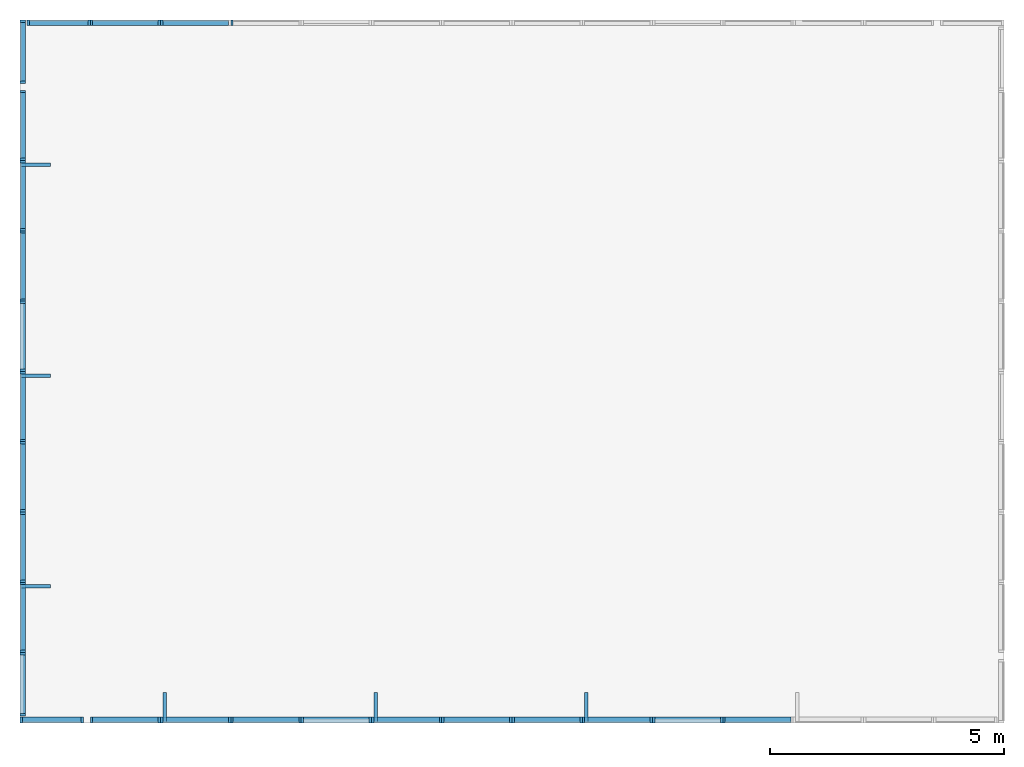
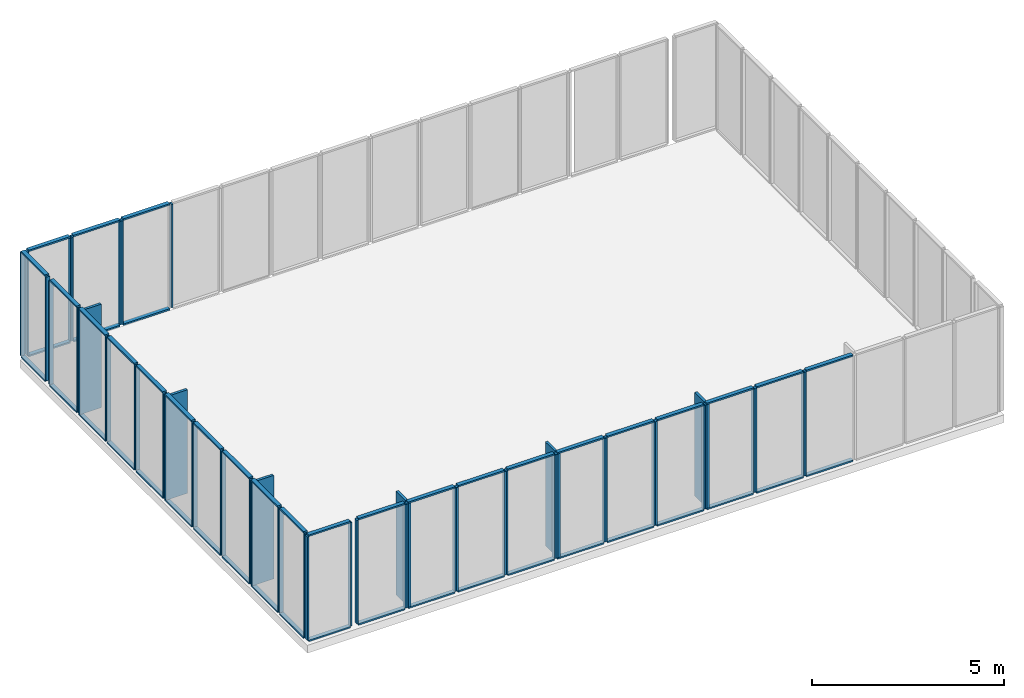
# One storey, part 1 of 3: 101 members.
"""IFC4 building model written with IfcOpenShell, lengths in metres."""

from ifc_helpers import new_model, si_unit, frame, origin_with_axes, place, context, subcontext, project, spatial, indexed_curve, outline, extrude, material, element, save


model = new_model("IFC4")

# Units and contexts
model_context = context("Model", 3, precision=1e-05, world=origin_with_axes())
body_context = subcontext(model_context, "Body", "Model", "MODEL_VIEW")
ifc_project = project(units=[si_unit("AREAUNIT", "SQUARE_METRE"), si_unit("VOLUMEUNIT", "CUBIC_METRE"), si_unit("LENGTHUNIT", "METRE")], contexts=[model_context])

# Site, building, storey
site = spatial("IfcSite", under=ifc_project, Name="Synthetic Site")
building = spatial("IfcBuilding", under=site, Name="Complex Tower")
storey_placement = place(None, frame((0.0, 0.0, 27.0), z_axis=(0.0, 0.0, 1.0), x_axis=(1.0, 0.0, 0.0)))
storey = spatial("IfcBuildingStorey", under=building, at=storey_placement, Name="L08", Elevation=27.0)

# Members
ifc_material = material(Name="Aluminium")
for number, where, z_axis, x_axis, name in (
    (1, (3.0, 1.5, 0.14999999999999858), (0.0, 0.0, 1.0), (1.0, 0.0, 0.0), "CT-L08-S-001-ML"),
    (2, (4.3, 1.5, 0.14999999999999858), (0.0, 0.0, 1.0), (1.0, 0.0, 0.0), "CT-L08-S-001-MR"),
):
    element("IfcMember", number, at=place(storey_placement, frame(where, z_axis=z_axis, x_axis=x_axis)), inside=storey, material=ifc_material, Name=name, PredefinedType="MULLION", context=body_context, shape_type="SweptSolid", body=[
        extrude(outline(indexed_curve([(0.0, 0.0), (0.0, 0.12), (0.05, 0.12), (0.05, 0.0), (0.0, 0.0)], self_intersect=False)), origin_with_axes(), (0.0, 0.0, 1.0), 3.3000000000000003),
    ])
for number, where, z_axis, x_axis, name in (
    (3, (3.05, 1.5, 0.09999999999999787), (0.0, 0.0, 1.0), (1.0, 0.0, 0.0), "CT-L08-S-001-FB"),
    (4, (3.05, 1.5, 3.4499999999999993), (0.0, 0.0, 1.0), (1.0, 0.0, 0.0), "CT-L08-S-001-FT"),
):
    element("IfcMember", number, at=place(storey_placement, frame(where, z_axis=z_axis, x_axis=x_axis)), inside=storey, material=ifc_material, Name=name, PredefinedType="MULLION", context=body_context, shape_type="SweptSolid", body=[
        extrude(outline(indexed_curve([(0.0, 0.0), (0.0, 0.12), (1.25, 0.12), (1.25, 0.0), (0.0, 0.0)], self_intersect=False)), origin_with_axes(), (0.0, 0.0, 1.0), 0.05),
    ])
for number, where, z_axis, x_axis, name in (
    (5, (4.5, 1.5, 0.14999999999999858), (0.0, 0.0, 1.0), (1.0, 0.0, 0.0), "CT-L08-S-002-ML"),
    (6, (5.949999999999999, 1.5, 0.14999999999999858), (0.0, 0.0, 1.0), (1.0, 0.0, 0.0), "CT-L08-S-002-MR"),
):
    element("IfcMember", number, at=place(storey_placement, frame(where, z_axis=z_axis, x_axis=x_axis)), inside=storey, material=ifc_material, Name=name, PredefinedType="MULLION", context=body_context, shape_type="SweptSolid", body=[
        extrude(outline(indexed_curve([(0.0, 0.0), (0.0, 0.12), (0.05, 0.12), (0.05, 0.0), (0.0, 0.0)], self_intersect=False)), origin_with_axes(), (0.0, 0.0, 1.0), 3.3000000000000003),
    ])
for number, where, z_axis, x_axis, name in (
    (7, (4.55, 1.5, 0.09999999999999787), (0.0, 0.0, 1.0), (1.0, 0.0, 0.0), "CT-L08-S-002-FB"),
    (8, (4.55, 1.5, 3.4499999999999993), (0.0, 0.0, 1.0), (1.0, 0.0, 0.0), "CT-L08-S-002-FT"),
):
    element("IfcMember", number, at=place(storey_placement, frame(where, z_axis=z_axis, x_axis=x_axis)), inside=storey, material=ifc_material, Name=name, PredefinedType="MULLION", context=body_context, shape_type="SweptSolid", body=[
        extrude(outline(indexed_curve([(0.0, 0.0), (0.0, 0.12), (1.4, 0.12), (1.4, 0.0), (0.0, 0.0)], self_intersect=False)), origin_with_axes(), (0.0, 0.0, 1.0), 0.05),
    ])
for number, where, z_axis, x_axis, name in (
    (9, (6.0, 1.5, 0.14999999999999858), (0.0, 0.0, 1.0), (1.0, 0.0, 0.0), "CT-L08-S-003-ML"),
    (10, (7.449999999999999, 1.5, 0.14999999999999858), (0.0, 0.0, 1.0), (1.0, 0.0, 0.0), "CT-L08-S-003-MR"),
):
    element("IfcMember", number, at=place(storey_placement, frame(where, z_axis=z_axis, x_axis=x_axis)), inside=storey, material=ifc_material, Name=name, PredefinedType="MULLION", context=body_context, shape_type="SweptSolid", body=[
        extrude(outline(indexed_curve([(0.0, 0.0), (0.0, 0.12), (0.05, 0.12), (0.05, 0.0), (0.0, 0.0)], self_intersect=False)), origin_with_axes(), (0.0, 0.0, 1.0), 3.3000000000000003),
    ])
for number, where, z_axis, x_axis, name in (
    (11, (6.05, 1.5, 0.09999999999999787), (0.0, 0.0, 1.0), (1.0, 0.0, 0.0), "CT-L08-S-003-FB"),
    (12, (6.05, 1.5, 3.4499999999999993), (0.0, 0.0, 1.0), (1.0, 0.0, 0.0), "CT-L08-S-003-FT"),
):
    element("IfcMember", number, at=place(storey_placement, frame(where, z_axis=z_axis, x_axis=x_axis)), inside=storey, material=ifc_material, Name=name, PredefinedType="MULLION", context=body_context, shape_type="SweptSolid", body=[
        extrude(outline(indexed_curve([(0.0, 0.0), (0.0, 0.12), (1.4, 0.12), (1.4, 0.0), (0.0, 0.0)], self_intersect=False)), origin_with_axes(), (0.0, 0.0, 1.0), 0.05),
    ])
member_1_placement = place(storey_placement, frame((6.05, 1.5, 0.14999999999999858), z_axis=(0.0, 0.0, 1.0), x_axis=(1.0, 0.0, 0.0)))
element("IfcMember", 13, at=member_1_placement, inside=storey, material=ifc_material, Name="CT-L08-S-003-FIN", ObjectType="Solar shading", PredefinedType="USERDEFINED", context=body_context, shape_type="SweptSolid", body=[
    extrude(outline(indexed_curve([(0.0, 0.0), (0.0, 0.65), (0.075, 0.65), (0.075, 0.0), (0.0, 0.0)], self_intersect=False)), origin_with_axes(), (0.0, 0.0, 1.0), 3.3000000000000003),
])
for number, where, z_axis, x_axis, name in (
    (14, (7.5, 1.5, 0.14999999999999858), (0.0, 0.0, 1.0), (1.0, 0.0, 0.0), "CT-L08-S-004-ML"),
    (15, (8.95, 1.5, 0.14999999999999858), (0.0, 0.0, 1.0), (1.0, 0.0, 0.0), "CT-L08-S-004-MR"),
):
    element("IfcMember", number, at=place(storey_placement, frame(where, z_axis=z_axis, x_axis=x_axis)), inside=storey, material=ifc_material, Name=name, PredefinedType="MULLION", context=body_context, shape_type="SweptSolid", body=[
        extrude(outline(indexed_curve([(0.0, 0.0), (0.0, 0.12), (0.05, 0.12), (0.05, 0.0), (0.0, 0.0)], self_intersect=False)), origin_with_axes(), (0.0, 0.0, 1.0), 3.3000000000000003),
    ])
for number, where, z_axis, x_axis, name in (
    (16, (7.55, 1.5, 0.09999999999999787), (0.0, 0.0, 1.0), (1.0, 0.0, 0.0), "CT-L08-S-004-FB"),
    (17, (7.55, 1.5, 3.4499999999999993), (0.0, 0.0, 1.0), (1.0, 0.0, 0.0), "CT-L08-S-004-FT"),
):
    element("IfcMember", number, at=place(storey_placement, frame(where, z_axis=z_axis, x_axis=x_axis)), inside=storey, material=ifc_material, Name=name, PredefinedType="MULLION", context=body_context, shape_type="SweptSolid", body=[
        extrude(outline(indexed_curve([(0.0, 0.0), (0.0, 0.12), (1.4, 0.12), (1.4, 0.0), (0.0, 0.0)], self_intersect=False)), origin_with_axes(), (0.0, 0.0, 1.0), 0.05),
    ])
for number, where, z_axis, x_axis, name in (
    (18, (9.0, 1.5, 0.14999999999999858), (0.0, 0.0, 1.0), (1.0, 0.0, 0.0), "CT-L08-S-005-ML"),
    (19, (10.450000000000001, 1.5, 0.14999999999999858), (0.0, 0.0, 1.0), (1.0, 0.0, 0.0), "CT-L08-S-005-MR"),
):
    element("IfcMember", number, at=place(storey_placement, frame(where, z_axis=z_axis, x_axis=x_axis)), inside=storey, material=ifc_material, Name=name, PredefinedType="MULLION", context=body_context, shape_type="SweptSolid", body=[
        extrude(outline(indexed_curve([(0.0, 0.0), (0.0, 0.12), (0.05, 0.12), (0.05, 0.0), (0.0, 0.0)], self_intersect=False)), origin_with_axes(), (0.0, 0.0, 1.0), 3.3000000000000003),
    ])
for number, where, z_axis, x_axis, name in (
    (20, (9.05, 1.5, 0.09999999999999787), (0.0, 0.0, 1.0), (1.0, 0.0, 0.0), "CT-L08-S-005-FB"),
    (21, (9.05, 1.5, 3.4499999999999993), (0.0, 0.0, 1.0), (1.0, 0.0, 0.0), "CT-L08-S-005-FT"),
):
    element("IfcMember", number, at=place(storey_placement, frame(where, z_axis=z_axis, x_axis=x_axis)), inside=storey, material=ifc_material, Name=name, PredefinedType="MULLION", context=body_context, shape_type="SweptSolid", body=[
        extrude(outline(indexed_curve([(0.0, 0.0), (0.0, 0.12), (1.4, 0.12), (1.4, 0.0), (0.0, 0.0)], self_intersect=False)), origin_with_axes(), (0.0, 0.0, 1.0), 0.05),
    ])
for number, where, z_axis, x_axis, name in (
    (22, (10.5, 1.5, 0.14999999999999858), (0.0, 0.0, 1.0), (1.0, 0.0, 0.0), "CT-L08-S-006-ML"),
    (23, (11.950000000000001, 1.5, 0.14999999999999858), (0.0, 0.0, 1.0), (1.0, 0.0, 0.0), "CT-L08-S-006-MR"),
):
    element("IfcMember", number, at=place(storey_placement, frame(where, z_axis=z_axis, x_axis=x_axis)), inside=storey, material=ifc_material, Name=name, PredefinedType="MULLION", context=body_context, shape_type="SweptSolid", body=[
        extrude(outline(indexed_curve([(0.0, 0.0), (0.0, 0.12), (0.05, 0.12), (0.05, 0.0), (0.0, 0.0)], self_intersect=False)), origin_with_axes(), (0.0, 0.0, 1.0), 3.3000000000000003),
    ])
for number, where, z_axis, x_axis, name in (
    (24, (10.55, 1.5, 0.09999999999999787), (0.0, 0.0, 1.0), (1.0, 0.0, 0.0), "CT-L08-S-006-FB"),
    (25, (10.55, 1.5, 3.4499999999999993), (0.0, 0.0, 1.0), (1.0, 0.0, 0.0), "CT-L08-S-006-FT"),
):
    element("IfcMember", number, at=place(storey_placement, frame(where, z_axis=z_axis, x_axis=x_axis)), inside=storey, material=ifc_material, Name=name, PredefinedType="MULLION", context=body_context, shape_type="SweptSolid", body=[
        extrude(outline(indexed_curve([(0.0, 0.0), (0.0, 0.12), (1.4, 0.12), (1.4, 0.0), (0.0, 0.0)], self_intersect=False)), origin_with_axes(), (0.0, 0.0, 1.0), 0.05),
    ])
member_2_placement = place(storey_placement, frame((10.55, 1.5, 0.14999999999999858), z_axis=(0.0, 0.0, 1.0), x_axis=(1.0, 0.0, 0.0)))
element("IfcMember", 26, at=member_2_placement, inside=storey, material=ifc_material, Name="CT-L08-S-006-FIN", ObjectType="Solar shading", PredefinedType="USERDEFINED", context=body_context, shape_type="SweptSolid", body=[
    extrude(outline(indexed_curve([(0.0, 0.0), (0.0, 0.65), (0.075, 0.65), (0.075, 0.0), (0.0, 0.0)], self_intersect=False)), origin_with_axes(), (0.0, 0.0, 1.0), 3.3000000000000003),
])
for number, where, z_axis, x_axis, name in (
    (27, (12.0, 1.5, 0.14999999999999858), (0.0, 0.0, 1.0), (1.0, 0.0, 0.0), "CT-L08-S-007-ML"),
    (28, (13.450000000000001, 1.5, 0.14999999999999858), (0.0, 0.0, 1.0), (1.0, 0.0, 0.0), "CT-L08-S-007-MR"),
):
    element("IfcMember", number, at=place(storey_placement, frame(where, z_axis=z_axis, x_axis=x_axis)), inside=storey, material=ifc_material, Name=name, PredefinedType="MULLION", context=body_context, shape_type="SweptSolid", body=[
        extrude(outline(indexed_curve([(0.0, 0.0), (0.0, 0.12), (0.05, 0.12), (0.05, 0.0), (0.0, 0.0)], self_intersect=False)), origin_with_axes(), (0.0, 0.0, 1.0), 3.3000000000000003),
    ])
for number, where, z_axis, x_axis, name in (
    (29, (12.05, 1.5, 0.09999999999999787), (0.0, 0.0, 1.0), (1.0, 0.0, 0.0), "CT-L08-S-007-FB"),
    (30, (12.05, 1.5, 3.4499999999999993), (0.0, 0.0, 1.0), (1.0, 0.0, 0.0), "CT-L08-S-007-FT"),
):
    element("IfcMember", number, at=place(storey_placement, frame(where, z_axis=z_axis, x_axis=x_axis)), inside=storey, material=ifc_material, Name=name, PredefinedType="MULLION", context=body_context, shape_type="SweptSolid", body=[
        extrude(outline(indexed_curve([(0.0, 0.0), (0.0, 0.12), (1.4, 0.12), (1.4, 0.0), (0.0, 0.0)], self_intersect=False)), origin_with_axes(), (0.0, 0.0, 1.0), 0.05),
    ])
for number, where, z_axis, x_axis, name in (
    (31, (13.5, 1.5, 0.14999999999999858), (0.0, 0.0, 1.0), (1.0, 0.0, 0.0), "CT-L08-S-008-ML"),
    (32, (14.950000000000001, 1.5, 0.14999999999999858), (0.0, 0.0, 1.0), (1.0, 0.0, 0.0), "CT-L08-S-008-MR"),
):
    element("IfcMember", number, at=place(storey_placement, frame(where, z_axis=z_axis, x_axis=x_axis)), inside=storey, material=ifc_material, Name=name, PredefinedType="MULLION", context=body_context, shape_type="SweptSolid", body=[
        extrude(outline(indexed_curve([(0.0, 0.0), (0.0, 0.12), (0.05, 0.12), (0.05, 0.0), (0.0, 0.0)], self_intersect=False)), origin_with_axes(), (0.0, 0.0, 1.0), 3.3000000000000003),
    ])
for number, where, z_axis, x_axis, name in (
    (33, (13.55, 1.5, 0.09999999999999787), (0.0, 0.0, 1.0), (1.0, 0.0, 0.0), "CT-L08-S-008-FB"),
    (34, (13.55, 1.5, 3.4499999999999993), (0.0, 0.0, 1.0), (1.0, 0.0, 0.0), "CT-L08-S-008-FT"),
):
    element("IfcMember", number, at=place(storey_placement, frame(where, z_axis=z_axis, x_axis=x_axis)), inside=storey, material=ifc_material, Name=name, PredefinedType="MULLION", context=body_context, shape_type="SweptSolid", body=[
        extrude(outline(indexed_curve([(0.0, 0.0), (0.0, 0.12), (1.4, 0.12), (1.4, 0.0), (0.0, 0.0)], self_intersect=False)), origin_with_axes(), (0.0, 0.0, 1.0), 0.05),
    ])
for number, where, z_axis, x_axis, name in (
    (35, (15.0, 1.5, 0.14999999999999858), (0.0, 0.0, 1.0), (1.0, 0.0, 0.0), "CT-L08-S-009-ML"),
    (36, (16.45, 1.5, 0.14999999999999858), (0.0, 0.0, 1.0), (1.0, 0.0, 0.0), "CT-L08-S-009-MR"),
):
    element("IfcMember", number, at=place(storey_placement, frame(where, z_axis=z_axis, x_axis=x_axis)), inside=storey, material=ifc_material, Name=name, PredefinedType="MULLION", context=body_context, shape_type="SweptSolid", body=[
        extrude(outline(indexed_curve([(0.0, 0.0), (0.0, 0.12), (0.05, 0.12), (0.05, 0.0), (0.0, 0.0)], self_intersect=False)), origin_with_axes(), (0.0, 0.0, 1.0), 3.3000000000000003),
    ])
for number, where, z_axis, x_axis, name in (
    (37, (15.05, 1.5, 0.09999999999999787), (0.0, 0.0, 1.0), (1.0, 0.0, 0.0), "CT-L08-S-009-FB"),
    (38, (15.05, 1.5, 3.4499999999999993), (0.0, 0.0, 1.0), (1.0, 0.0, 0.0), "CT-L08-S-009-FT"),
):
    element("IfcMember", number, at=place(storey_placement, frame(where, z_axis=z_axis, x_axis=x_axis)), inside=storey, material=ifc_material, Name=name, PredefinedType="MULLION", context=body_context, shape_type="SweptSolid", body=[
        extrude(outline(indexed_curve([(0.0, 0.0), (0.0, 0.12), (1.4, 0.12), (1.4, 0.0), (0.0, 0.0)], self_intersect=False)), origin_with_axes(), (0.0, 0.0, 1.0), 0.05),
    ])
member_3_placement = place(storey_placement, frame((15.05, 1.5, 0.14999999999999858), z_axis=(0.0, 0.0, 1.0), x_axis=(1.0, 0.0, 0.0)))
element("IfcMember", 39, at=member_3_placement, inside=storey, material=ifc_material, Name="CT-L08-S-009-FIN", ObjectType="Solar shading", PredefinedType="USERDEFINED", context=body_context, shape_type="SweptSolid", body=[
    extrude(outline(indexed_curve([(0.0, 0.0), (0.0, 0.65), (0.075, 0.65), (0.075, 0.0), (0.0, 0.0)], self_intersect=False)), origin_with_axes(), (0.0, 0.0, 1.0), 3.3000000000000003),
])
for number, where, z_axis, x_axis, name in (
    (40, (16.5, 1.5, 0.14999999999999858), (0.0, 0.0, 1.0), (1.0, 0.0, 0.0), "CT-L08-S-010-ML"),
    (41, (17.95, 1.5, 0.14999999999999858), (0.0, 0.0, 1.0), (1.0, 0.0, 0.0), "CT-L08-S-010-MR"),
):
    element("IfcMember", number, at=place(storey_placement, frame(where, z_axis=z_axis, x_axis=x_axis)), inside=storey, material=ifc_material, Name=name, PredefinedType="MULLION", context=body_context, shape_type="SweptSolid", body=[
        extrude(outline(indexed_curve([(0.0, 0.0), (0.0, 0.12), (0.05, 0.12), (0.05, 0.0), (0.0, 0.0)], self_intersect=False)), origin_with_axes(), (0.0, 0.0, 1.0), 3.3000000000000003),
    ])
for number, where, z_axis, x_axis, name in (
    (42, (16.55, 1.5, 0.09999999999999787), (0.0, 0.0, 1.0), (1.0, 0.0, 0.0), "CT-L08-S-010-FB"),
    (43, (16.55, 1.5, 3.4499999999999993), (0.0, 0.0, 1.0), (1.0, 0.0, 0.0), "CT-L08-S-010-FT"),
):
    element("IfcMember", number, at=place(storey_placement, frame(where, z_axis=z_axis, x_axis=x_axis)), inside=storey, material=ifc_material, Name=name, PredefinedType="MULLION", context=body_context, shape_type="SweptSolid", body=[
        extrude(outline(indexed_curve([(0.0, 0.0), (0.0, 0.12), (1.4, 0.12), (1.4, 0.0), (0.0, 0.0)], self_intersect=False)), origin_with_axes(), (0.0, 0.0, 1.0), 0.05),
    ])
member_4_placement = place(storey_placement, frame((18.0, 1.5, 0.14999999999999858), z_axis=(0.0, 0.0, 1.0), x_axis=(1.0, 0.0, 0.0)))
element("IfcMember", 44, at=member_4_placement, inside=storey, material=ifc_material, Name="CT-L08-S-011-ML", PredefinedType="MULLION", context=body_context, shape_type="SweptSolid", body=[
    extrude(outline(indexed_curve([(0.0, 0.0), (0.0, 0.12), (0.05, 0.12), (0.05, 0.0), (0.0, 0.0)], self_intersect=False)), origin_with_axes(), (0.0, 0.0, 1.0), 3.3000000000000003),
])
for number, where, z_axis, x_axis, name in (
    (45, (18.05, 1.5, 0.09999999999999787), (0.0, 0.0, 1.0), (1.0, 0.0, 0.0), "CT-L08-S-011-FB"),
    (46, (18.05, 1.5, 3.4499999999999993), (0.0, 0.0, 1.0), (1.0, 0.0, 0.0), "CT-L08-S-011-FT"),
):
    element("IfcMember", number, at=place(storey_placement, frame(where, z_axis=z_axis, x_axis=x_axis)), inside=storey, material=ifc_material, Name=name, PredefinedType="MULLION", context=body_context, shape_type="SweptSolid", body=[
        extrude(outline(indexed_curve([(0.0, 0.0), (0.0, 0.12), (1.4, 0.12), (1.4, 0.0), (0.0, 0.0)], self_intersect=False)), origin_with_axes(), (0.0, 0.0, 1.0), 0.05),
    ])
for number, where, z_axis, x_axis, name in (
    (47, (7.549999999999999, 16.500000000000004, 0.14999999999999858), (0.0, 0.0, 1.0), (-1.0, 1.2246467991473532e-16, 0.0), "CT-L08-N-011-MR"),
    (48, (6.049999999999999, 16.500000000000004, 0.14999999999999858), (0.0, 0.0, 1.0), (-1.0, 1.2246467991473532e-16, 0.0), "CT-L08-N-012-MR"),
):
    element("IfcMember", number, at=place(storey_placement, frame(where, z_axis=z_axis, x_axis=x_axis)), inside=storey, material=ifc_material, Name=name, PredefinedType="MULLION", context=body_context, shape_type="SweptSolid", body=[
        extrude(outline(indexed_curve([(0.0, 0.0), (0.0, 0.12), (0.05, 0.12), (0.05, 0.0), (0.0, 0.0)], self_intersect=False)), origin_with_axes(), (0.0, 0.0, 1.0), 3.3000000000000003),
    ])
for number, where, z_axis, x_axis, name in (
    (49, (7.449999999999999, 16.500000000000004, 0.09999999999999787), (0.0, 0.0, 1.0), (-1.0, 1.2246467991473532e-16, 0.0), "CT-L08-N-012-FB"),
    (50, (7.449999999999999, 16.500000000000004, 3.4499999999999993), (0.0, 0.0, 1.0), (-1.0, 1.2246467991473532e-16, 0.0), "CT-L08-N-012-FT"),
):
    element("IfcMember", number, at=place(storey_placement, frame(where, z_axis=z_axis, x_axis=x_axis)), inside=storey, material=ifc_material, Name=name, PredefinedType="MULLION", context=body_context, shape_type="SweptSolid", body=[
        extrude(outline(indexed_curve([(0.0, 0.0), (0.0, 0.12), (1.4, 0.12), (1.4, 0.0), (0.0, 0.0)], self_intersect=False)), origin_with_axes(), (0.0, 0.0, 1.0), 0.05),
    ])
for number, where, z_axis, x_axis, name in (
    (51, (5.999999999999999, 16.500000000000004, 0.14999999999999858), (0.0, 0.0, 1.0), (-1.0, 1.2246467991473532e-16, 0.0), "CT-L08-N-013-ML"),
    (52, (4.549999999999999, 16.500000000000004, 0.14999999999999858), (0.0, 0.0, 1.0), (-1.0, 1.2246467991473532e-16, 0.0), "CT-L08-N-013-MR"),
):
    element("IfcMember", number, at=place(storey_placement, frame(where, z_axis=z_axis, x_axis=x_axis)), inside=storey, material=ifc_material, Name=name, PredefinedType="MULLION", context=body_context, shape_type="SweptSolid", body=[
        extrude(outline(indexed_curve([(0.0, 0.0), (0.0, 0.12), (0.05, 0.12), (0.05, 0.0), (0.0, 0.0)], self_intersect=False)), origin_with_axes(), (0.0, 0.0, 1.0), 3.3000000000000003),
    ])
for number, where, z_axis, x_axis, name in (
    (53, (5.949999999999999, 16.500000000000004, 0.09999999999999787), (0.0, 0.0, 1.0), (-1.0, 1.2246467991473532e-16, 0.0), "CT-L08-N-013-FB"),
    (54, (5.949999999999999, 16.500000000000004, 3.4499999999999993), (0.0, 0.0, 1.0), (-1.0, 1.2246467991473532e-16, 0.0), "CT-L08-N-013-FT"),
):
    element("IfcMember", number, at=place(storey_placement, frame(where, z_axis=z_axis, x_axis=x_axis)), inside=storey, material=ifc_material, Name=name, PredefinedType="MULLION", context=body_context, shape_type="SweptSolid", body=[
        extrude(outline(indexed_curve([(0.0, 0.0), (0.0, 0.12), (1.4, 0.12), (1.4, 0.0), (0.0, 0.0)], self_intersect=False)), origin_with_axes(), (0.0, 0.0, 1.0), 0.05),
    ])
for number, where, z_axis, x_axis, name in (
    (55, (4.499999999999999, 16.500000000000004, 0.14999999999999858), (0.0, 0.0, 1.0), (-1.0, 1.2246467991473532e-16, 0.0), "CT-L08-N-014-ML"),
    (56, (3.1999999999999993, 16.500000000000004, 0.14999999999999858), (0.0, 0.0, 1.0), (-1.0, 1.2246467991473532e-16, 0.0), "CT-L08-N-014-MR"),
):
    element("IfcMember", number, at=place(storey_placement, frame(where, z_axis=z_axis, x_axis=x_axis)), inside=storey, material=ifc_material, Name=name, PredefinedType="MULLION", context=body_context, shape_type="SweptSolid", body=[
        extrude(outline(indexed_curve([(0.0, 0.0), (0.0, 0.12), (0.05, 0.12), (0.05, 0.0), (0.0, 0.0)], self_intersect=False)), origin_with_axes(), (0.0, 0.0, 1.0), 3.3000000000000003),
    ])
for number, where, z_axis, x_axis, name in (
    (57, (4.449999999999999, 16.500000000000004, 0.09999999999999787), (0.0, 0.0, 1.0), (-1.0, 1.2246467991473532e-16, 0.0), "CT-L08-N-014-FB"),
    (58, (4.449999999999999, 16.500000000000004, 3.4499999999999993), (0.0, 0.0, 1.0), (-1.0, 1.2246467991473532e-16, 0.0), "CT-L08-N-014-FT"),
):
    element("IfcMember", number, at=place(storey_placement, frame(where, z_axis=z_axis, x_axis=x_axis)), inside=storey, material=ifc_material, Name=name, PredefinedType="MULLION", context=body_context, shape_type="SweptSolid", body=[
        extrude(outline(indexed_curve([(0.0, 0.0), (0.0, 0.12), (1.25, 0.12), (1.25, 0.0), (0.0, 0.0)], self_intersect=False)), origin_with_axes(), (0.0, 0.0, 1.0), 0.05),
    ])
for number, where, z_axis, x_axis, name in (
    (59, (3.0, 16.5, 0.14999999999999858), (0.0, 0.0, 1.0), (-1.8369701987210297e-16, -1.0, 0.0), "CT-L08-W-001-ML"),
    (60, (2.9999999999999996, 15.2, 0.14999999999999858), (0.0, 0.0, 1.0), (-1.8369701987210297e-16, -1.0, 0.0), "CT-L08-W-001-MR"),
):
    element("IfcMember", number, at=place(storey_placement, frame(where, z_axis=z_axis, x_axis=x_axis)), inside=storey, material=ifc_material, Name=name, PredefinedType="MULLION", context=body_context, shape_type="SweptSolid", body=[
        extrude(outline(indexed_curve([(0.0, 0.0), (0.0, 0.12), (0.05, 0.12), (0.05, 0.0), (0.0, 0.0)], self_intersect=False)), origin_with_axes(), (0.0, 0.0, 1.0), 3.3000000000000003),
    ])
for number, where, z_axis, x_axis, name in (
    (61, (3.0, 16.45, 0.09999999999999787), (0.0, 0.0, 1.0), (-1.8369701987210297e-16, -1.0, 0.0), "CT-L08-W-001-FB"),
    (62, (3.0, 16.45, 3.4499999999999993), (0.0, 0.0, 1.0), (-1.8369701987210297e-16, -1.0, 0.0), "CT-L08-W-001-FT"),
):
    element("IfcMember", number, at=place(storey_placement, frame(where, z_axis=z_axis, x_axis=x_axis)), inside=storey, material=ifc_material, Name=name, PredefinedType="MULLION", context=body_context, shape_type="SweptSolid", body=[
        extrude(outline(indexed_curve([(0.0, 0.0), (0.0, 0.12), (1.25, 0.12), (1.25, 0.0), (0.0, 0.0)], self_intersect=False)), origin_with_axes(), (0.0, 0.0, 1.0), 0.05),
    ])
for number, where, z_axis, x_axis, name in (
    (63, (2.9999999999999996, 15.0, 0.14999999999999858), (0.0, 0.0, 1.0), (-1.8369701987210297e-16, -1.0, 0.0), "CT-L08-W-002-ML"),
    (64, (2.999999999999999, 13.549999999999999, 0.14999999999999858), (0.0, 0.0, 1.0), (-1.8369701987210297e-16, -1.0, 0.0), "CT-L08-W-002-MR"),
):
    element("IfcMember", number, at=place(storey_placement, frame(where, z_axis=z_axis, x_axis=x_axis)), inside=storey, material=ifc_material, Name=name, PredefinedType="MULLION", context=body_context, shape_type="SweptSolid", body=[
        extrude(outline(indexed_curve([(0.0, 0.0), (0.0, 0.12), (0.05, 0.12), (0.05, 0.0), (0.0, 0.0)], self_intersect=False)), origin_with_axes(), (0.0, 0.0, 1.0), 3.3000000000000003),
    ])
for number, where, z_axis, x_axis, name in (
    (65, (2.9999999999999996, 14.95, 0.09999999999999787), (0.0, 0.0, 1.0), (-1.8369701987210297e-16, -1.0, 0.0), "CT-L08-W-002-FB"),
    (66, (2.9999999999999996, 14.95, 3.4499999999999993), (0.0, 0.0, 1.0), (-1.8369701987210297e-16, -1.0, 0.0), "CT-L08-W-002-FT"),
):
    element("IfcMember", number, at=place(storey_placement, frame(where, z_axis=z_axis, x_axis=x_axis)), inside=storey, material=ifc_material, Name=name, PredefinedType="MULLION", context=body_context, shape_type="SweptSolid", body=[
        extrude(outline(indexed_curve([(0.0, 0.0), (0.0, 0.12), (1.4, 0.12), (1.4, 0.0), (0.0, 0.0)], self_intersect=False)), origin_with_axes(), (0.0, 0.0, 1.0), 0.05),
    ])
for number, where, z_axis, x_axis, name in (
    (67, (2.9999999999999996, 13.5, 0.14999999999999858), (0.0, 0.0, 1.0), (-1.8369701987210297e-16, -1.0, 0.0), "CT-L08-W-003-ML"),
    (68, (2.999999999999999, 12.049999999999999, 0.14999999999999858), (0.0, 0.0, 1.0), (-1.8369701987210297e-16, -1.0, 0.0), "CT-L08-W-003-MR"),
):
    element("IfcMember", number, at=place(storey_placement, frame(where, z_axis=z_axis, x_axis=x_axis)), inside=storey, material=ifc_material, Name=name, PredefinedType="MULLION", context=body_context, shape_type="SweptSolid", body=[
        extrude(outline(indexed_curve([(0.0, 0.0), (0.0, 0.12), (0.05, 0.12), (0.05, 0.0), (0.0, 0.0)], self_intersect=False)), origin_with_axes(), (0.0, 0.0, 1.0), 3.3000000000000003),
    ])
for number, where, z_axis, x_axis, name in (
    (69, (2.9999999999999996, 13.45, 0.09999999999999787), (0.0, 0.0, 1.0), (-1.8369701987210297e-16, -1.0, 0.0), "CT-L08-W-003-FB"),
    (70, (2.9999999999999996, 13.45, 3.4499999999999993), (0.0, 0.0, 1.0), (-1.8369701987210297e-16, -1.0, 0.0), "CT-L08-W-003-FT"),
):
    element("IfcMember", number, at=place(storey_placement, frame(where, z_axis=z_axis, x_axis=x_axis)), inside=storey, material=ifc_material, Name=name, PredefinedType="MULLION", context=body_context, shape_type="SweptSolid", body=[
        extrude(outline(indexed_curve([(0.0, 0.0), (0.0, 0.12), (1.4, 0.12), (1.4, 0.0), (0.0, 0.0)], self_intersect=False)), origin_with_axes(), (0.0, 0.0, 1.0), 0.05),
    ])
member_5_placement = place(storey_placement, frame((2.9999999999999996, 13.45, 0.14999999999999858), z_axis=(0.0, 0.0, 1.0), x_axis=(-1.8369701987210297e-16, -1.0, 0.0)))
element("IfcMember", 71, at=member_5_placement, inside=storey, material=ifc_material, Name="CT-L08-W-003-FIN", ObjectType="Solar shading", PredefinedType="USERDEFINED", context=body_context, shape_type="SweptSolid", body=[
    extrude(outline(indexed_curve([(0.0, 0.0), (0.0, 0.65), (0.075, 0.65), (0.075, 0.0), (0.0, 0.0)], self_intersect=False)), origin_with_axes(), (0.0, 0.0, 1.0), 3.3000000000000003),
])
for number, where, z_axis, x_axis, name in (
    (72, (2.999999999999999, 12.0, 0.14999999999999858), (0.0, 0.0, 1.0), (-1.8369701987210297e-16, -1.0, 0.0), "CT-L08-W-004-ML"),
    (73, (2.9999999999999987, 10.549999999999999, 0.14999999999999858), (0.0, 0.0, 1.0), (-1.8369701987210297e-16, -1.0, 0.0), "CT-L08-W-004-MR"),
):
    element("IfcMember", number, at=place(storey_placement, frame(where, z_axis=z_axis, x_axis=x_axis)), inside=storey, material=ifc_material, Name=name, PredefinedType="MULLION", context=body_context, shape_type="SweptSolid", body=[
        extrude(outline(indexed_curve([(0.0, 0.0), (0.0, 0.12), (0.05, 0.12), (0.05, 0.0), (0.0, 0.0)], self_intersect=False)), origin_with_axes(), (0.0, 0.0, 1.0), 3.3000000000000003),
    ])
for number, where, z_axis, x_axis, name in (
    (74, (2.999999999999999, 11.95, 0.09999999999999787), (0.0, 0.0, 1.0), (-1.8369701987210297e-16, -1.0, 0.0), "CT-L08-W-004-FB"),
    (75, (2.999999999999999, 11.95, 3.4499999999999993), (0.0, 0.0, 1.0), (-1.8369701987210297e-16, -1.0, 0.0), "CT-L08-W-004-FT"),
):
    element("IfcMember", number, at=place(storey_placement, frame(where, z_axis=z_axis, x_axis=x_axis)), inside=storey, material=ifc_material, Name=name, PredefinedType="MULLION", context=body_context, shape_type="SweptSolid", body=[
        extrude(outline(indexed_curve([(0.0, 0.0), (0.0, 0.12), (1.4, 0.12), (1.4, 0.0), (0.0, 0.0)], self_intersect=False)), origin_with_axes(), (0.0, 0.0, 1.0), 0.05),
    ])
for number, where, z_axis, x_axis, name in (
    (76, (2.9999999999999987, 10.5, 0.14999999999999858), (0.0, 0.0, 1.0), (-1.8369701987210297e-16, -1.0, 0.0), "CT-L08-W-005-ML"),
    (77, (2.9999999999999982, 9.049999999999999, 0.14999999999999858), (0.0, 0.0, 1.0), (-1.8369701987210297e-16, -1.0, 0.0), "CT-L08-W-005-MR"),
):
    element("IfcMember", number, at=place(storey_placement, frame(where, z_axis=z_axis, x_axis=x_axis)), inside=storey, material=ifc_material, Name=name, PredefinedType="MULLION", context=body_context, shape_type="SweptSolid", body=[
        extrude(outline(indexed_curve([(0.0, 0.0), (0.0, 0.12), (0.05, 0.12), (0.05, 0.0), (0.0, 0.0)], self_intersect=False)), origin_with_axes(), (0.0, 0.0, 1.0), 3.3000000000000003),
    ])
for number, where, z_axis, x_axis, name in (
    (78, (2.9999999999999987, 10.45, 0.09999999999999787), (0.0, 0.0, 1.0), (-1.8369701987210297e-16, -1.0, 0.0), "CT-L08-W-005-FB"),
    (79, (2.9999999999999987, 10.45, 3.4499999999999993), (0.0, 0.0, 1.0), (-1.8369701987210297e-16, -1.0, 0.0), "CT-L08-W-005-FT"),
):
    element("IfcMember", number, at=place(storey_placement, frame(where, z_axis=z_axis, x_axis=x_axis)), inside=storey, material=ifc_material, Name=name, PredefinedType="MULLION", context=body_context, shape_type="SweptSolid", body=[
        extrude(outline(indexed_curve([(0.0, 0.0), (0.0, 0.12), (1.4, 0.12), (1.4, 0.0), (0.0, 0.0)], self_intersect=False)), origin_with_axes(), (0.0, 0.0, 1.0), 0.05),
    ])
for number, where, z_axis, x_axis, name in (
    (80, (2.9999999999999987, 9.0, 0.14999999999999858), (0.0, 0.0, 1.0), (-1.8369701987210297e-16, -1.0, 0.0), "CT-L08-W-006-ML"),
    (81, (2.9999999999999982, 7.549999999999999, 0.14999999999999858), (0.0, 0.0, 1.0), (-1.8369701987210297e-16, -1.0, 0.0), "CT-L08-W-006-MR"),
):
    element("IfcMember", number, at=place(storey_placement, frame(where, z_axis=z_axis, x_axis=x_axis)), inside=storey, material=ifc_material, Name=name, PredefinedType="MULLION", context=body_context, shape_type="SweptSolid", body=[
        extrude(outline(indexed_curve([(0.0, 0.0), (0.0, 0.12), (0.05, 0.12), (0.05, 0.0), (0.0, 0.0)], self_intersect=False)), origin_with_axes(), (0.0, 0.0, 1.0), 3.3000000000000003),
    ])
for number, where, z_axis, x_axis, name in (
    (82, (2.9999999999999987, 8.95, 0.09999999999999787), (0.0, 0.0, 1.0), (-1.8369701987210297e-16, -1.0, 0.0), "CT-L08-W-006-FB"),
    (83, (2.9999999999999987, 8.95, 3.4499999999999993), (0.0, 0.0, 1.0), (-1.8369701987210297e-16, -1.0, 0.0), "CT-L08-W-006-FT"),
):
    element("IfcMember", number, at=place(storey_placement, frame(where, z_axis=z_axis, x_axis=x_axis)), inside=storey, material=ifc_material, Name=name, PredefinedType="MULLION", context=body_context, shape_type="SweptSolid", body=[
        extrude(outline(indexed_curve([(0.0, 0.0), (0.0, 0.12), (1.4, 0.12), (1.4, 0.0), (0.0, 0.0)], self_intersect=False)), origin_with_axes(), (0.0, 0.0, 1.0), 0.05),
    ])
member_6_placement = place(storey_placement, frame((2.9999999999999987, 8.95, 0.14999999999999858), z_axis=(0.0, 0.0, 1.0), x_axis=(-1.8369701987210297e-16, -1.0, 0.0)))
element("IfcMember", 84, at=member_6_placement, inside=storey, material=ifc_material, Name="CT-L08-W-006-FIN", ObjectType="Solar shading", PredefinedType="USERDEFINED", context=body_context, shape_type="SweptSolid", body=[
    extrude(outline(indexed_curve([(0.0, 0.0), (0.0, 0.65), (0.075, 0.65), (0.075, 0.0), (0.0, 0.0)], self_intersect=False)), origin_with_axes(), (0.0, 0.0, 1.0), 3.3000000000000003),
])
for number, where, z_axis, x_axis, name in (
    (85, (2.9999999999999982, 7.499999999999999, 0.14999999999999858), (0.0, 0.0, 1.0), (-1.8369701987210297e-16, -1.0, 0.0), "CT-L08-W-007-ML"),
    (86, (2.999999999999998, 6.049999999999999, 0.14999999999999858), (0.0, 0.0, 1.0), (-1.8369701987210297e-16, -1.0, 0.0), "CT-L08-W-007-MR"),
):
    element("IfcMember", number, at=place(storey_placement, frame(where, z_axis=z_axis, x_axis=x_axis)), inside=storey, material=ifc_material, Name=name, PredefinedType="MULLION", context=body_context, shape_type="SweptSolid", body=[
        extrude(outline(indexed_curve([(0.0, 0.0), (0.0, 0.12), (0.05, 0.12), (0.05, 0.0), (0.0, 0.0)], self_intersect=False)), origin_with_axes(), (0.0, 0.0, 1.0), 3.3000000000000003),
    ])
for number, where, z_axis, x_axis, name in (
    (87, (2.9999999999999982, 7.449999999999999, 0.09999999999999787), (0.0, 0.0, 1.0), (-1.8369701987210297e-16, -1.0, 0.0), "CT-L08-W-007-FB"),
    (88, (2.9999999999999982, 7.449999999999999, 3.4499999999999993), (0.0, 0.0, 1.0), (-1.8369701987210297e-16, -1.0, 0.0), "CT-L08-W-007-FT"),
):
    element("IfcMember", number, at=place(storey_placement, frame(where, z_axis=z_axis, x_axis=x_axis)), inside=storey, material=ifc_material, Name=name, PredefinedType="MULLION", context=body_context, shape_type="SweptSolid", body=[
        extrude(outline(indexed_curve([(0.0, 0.0), (0.0, 0.12), (1.4, 0.12), (1.4, 0.0), (0.0, 0.0)], self_intersect=False)), origin_with_axes(), (0.0, 0.0, 1.0), 0.05),
    ])
for number, where, z_axis, x_axis, name in (
    (89, (2.9999999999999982, 5.999999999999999, 0.14999999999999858), (0.0, 0.0, 1.0), (-1.8369701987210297e-16, -1.0, 0.0), "CT-L08-W-008-ML"),
    (90, (2.999999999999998, 4.549999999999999, 0.14999999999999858), (0.0, 0.0, 1.0), (-1.8369701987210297e-16, -1.0, 0.0), "CT-L08-W-008-MR"),
):
    element("IfcMember", number, at=place(storey_placement, frame(where, z_axis=z_axis, x_axis=x_axis)), inside=storey, material=ifc_material, Name=name, PredefinedType="MULLION", context=body_context, shape_type="SweptSolid", body=[
        extrude(outline(indexed_curve([(0.0, 0.0), (0.0, 0.12), (0.05, 0.12), (0.05, 0.0), (0.0, 0.0)], self_intersect=False)), origin_with_axes(), (0.0, 0.0, 1.0), 3.3000000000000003),
    ])
for number, where, z_axis, x_axis, name in (
    (91, (2.9999999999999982, 5.949999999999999, 0.09999999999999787), (0.0, 0.0, 1.0), (-1.8369701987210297e-16, -1.0, 0.0), "CT-L08-W-008-FB"),
    (92, (2.9999999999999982, 5.949999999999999, 3.4499999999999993), (0.0, 0.0, 1.0), (-1.8369701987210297e-16, -1.0, 0.0), "CT-L08-W-008-FT"),
):
    element("IfcMember", number, at=place(storey_placement, frame(where, z_axis=z_axis, x_axis=x_axis)), inside=storey, material=ifc_material, Name=name, PredefinedType="MULLION", context=body_context, shape_type="SweptSolid", body=[
        extrude(outline(indexed_curve([(0.0, 0.0), (0.0, 0.12), (1.4, 0.12), (1.4, 0.0), (0.0, 0.0)], self_intersect=False)), origin_with_axes(), (0.0, 0.0, 1.0), 0.05),
    ])
for number, where, z_axis, x_axis, name in (
    (93, (2.999999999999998, 4.499999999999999, 0.14999999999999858), (0.0, 0.0, 1.0), (-1.8369701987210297e-16, -1.0, 0.0), "CT-L08-W-009-ML"),
    (94, (2.9999999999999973, 3.0499999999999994, 0.14999999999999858), (0.0, 0.0, 1.0), (-1.8369701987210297e-16, -1.0, 0.0), "CT-L08-W-009-MR"),
):
    element("IfcMember", number, at=place(storey_placement, frame(where, z_axis=z_axis, x_axis=x_axis)), inside=storey, material=ifc_material, Name=name, PredefinedType="MULLION", context=body_context, shape_type="SweptSolid", body=[
        extrude(outline(indexed_curve([(0.0, 0.0), (0.0, 0.12), (0.05, 0.12), (0.05, 0.0), (0.0, 0.0)], self_intersect=False)), origin_with_axes(), (0.0, 0.0, 1.0), 3.3000000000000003),
    ])
for number, where, z_axis, x_axis, name in (
    (95, (2.999999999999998, 4.449999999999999, 0.09999999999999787), (0.0, 0.0, 1.0), (-1.8369701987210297e-16, -1.0, 0.0), "CT-L08-W-009-FB"),
    (96, (2.999999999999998, 4.449999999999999, 3.4499999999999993), (0.0, 0.0, 1.0), (-1.8369701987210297e-16, -1.0, 0.0), "CT-L08-W-009-FT"),
):
    element("IfcMember", number, at=place(storey_placement, frame(where, z_axis=z_axis, x_axis=x_axis)), inside=storey, material=ifc_material, Name=name, PredefinedType="MULLION", context=body_context, shape_type="SweptSolid", body=[
        extrude(outline(indexed_curve([(0.0, 0.0), (0.0, 0.12), (1.4, 0.12), (1.4, 0.0), (0.0, 0.0)], self_intersect=False)), origin_with_axes(), (0.0, 0.0, 1.0), 0.05),
    ])
member_7_placement = place(storey_placement, frame((2.999999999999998, 4.449999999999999, 0.14999999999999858), z_axis=(0.0, 0.0, 1.0), x_axis=(-1.8369701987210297e-16, -1.0, 0.0)))
element("IfcMember", 97, at=member_7_placement, inside=storey, material=ifc_material, Name="CT-L08-W-009-FIN", ObjectType="Solar shading", PredefinedType="USERDEFINED", context=body_context, shape_type="SweptSolid", body=[
    extrude(outline(indexed_curve([(0.0, 0.0), (0.0, 0.65), (0.075, 0.65), (0.075, 0.0), (0.0, 0.0)], self_intersect=False)), origin_with_axes(), (0.0, 0.0, 1.0), 3.3000000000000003),
])
for number, where, z_axis, x_axis, name in (
    (98, (2.9999999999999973, 2.999999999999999, 0.14999999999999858), (0.0, 0.0, 1.0), (-1.8369701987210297e-16, -1.0, 0.0), "CT-L08-W-010-ML"),
    (99, (2.999999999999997, 1.6999999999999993, 0.14999999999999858), (0.0, 0.0, 1.0), (-1.8369701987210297e-16, -1.0, 0.0), "CT-L08-W-010-MR"),
):
    element("IfcMember", number, at=place(storey_placement, frame(where, z_axis=z_axis, x_axis=x_axis)), inside=storey, material=ifc_material, Name=name, PredefinedType="MULLION", context=body_context, shape_type="SweptSolid", body=[
        extrude(outline(indexed_curve([(0.0, 0.0), (0.0, 0.12), (0.05, 0.12), (0.05, 0.0), (0.0, 0.0)], self_intersect=False)), origin_with_axes(), (0.0, 0.0, 1.0), 3.3000000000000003),
    ])
for number, where, z_axis, x_axis, name in (
    (100, (2.9999999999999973, 2.9499999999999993, 0.09999999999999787), (0.0, 0.0, 1.0), (-1.8369701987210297e-16, -1.0, 0.0), "CT-L08-W-010-FB"),
    (101, (2.9999999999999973, 2.9499999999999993, 3.4499999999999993), (0.0, 0.0, 1.0), (-1.8369701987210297e-16, -1.0, 0.0), "CT-L08-W-010-FT"),
):
    element("IfcMember", number, at=place(storey_placement, frame(where, z_axis=z_axis, x_axis=x_axis)), inside=storey, material=ifc_material, Name=name, PredefinedType="MULLION", context=body_context, shape_type="SweptSolid", body=[
        extrude(outline(indexed_curve([(0.0, 0.0), (0.0, 0.12), (1.25, 0.12), (1.25, 0.0), (0.0, 0.0)], self_intersect=False)), origin_with_axes(), (0.0, 0.0, 1.0), 0.05),
    ])

save(model, "model.ifc")
